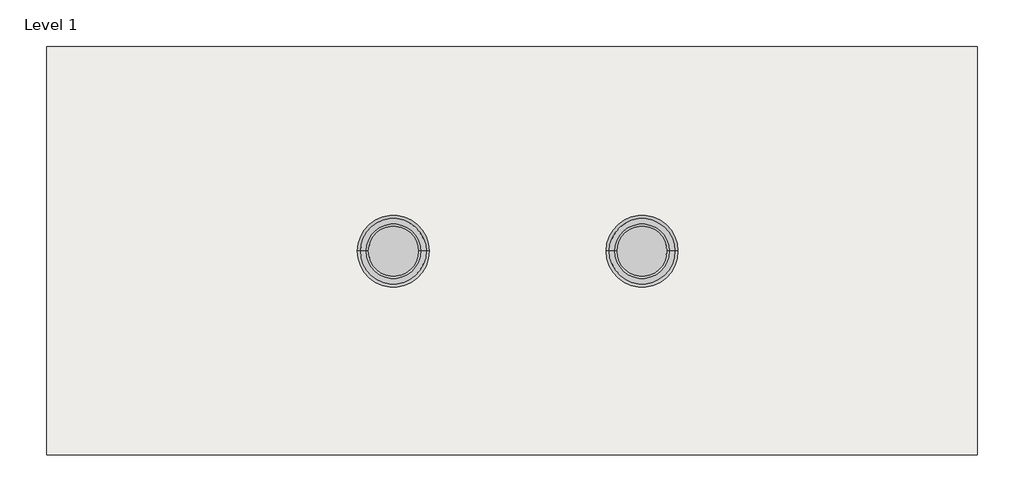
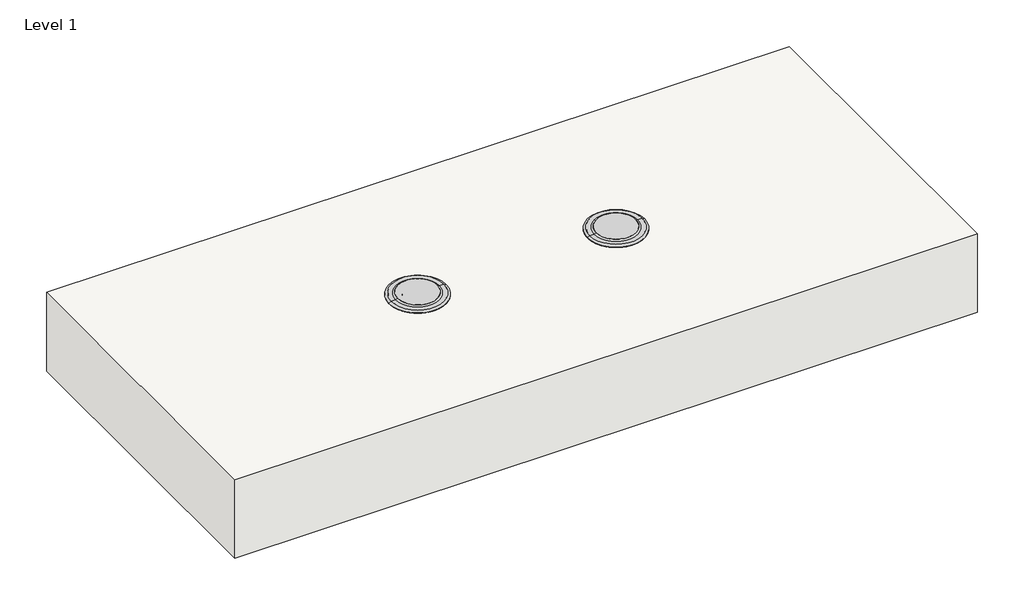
# One storey: 2 proxies, 1 slab.
"""IFC4 building model written with IfcOpenShell, lengths in millimetres."""

import ifcopenshell
import ifcopenshell.guid

model = None  # the IFC model being written
_history = None  # IfcOwnerHistory: only IFC2X3 demands one
_inside = {}  # id of a spatial element -> (the spatial element, [elements in it])
_under = {}  # id of a project, library or spatial element -> (it, [spatial elements below it])
_declared = {}  # id of a project -> (the project, [libraries it declares])
_typed = {}  # id of a type object -> (the type object, [elements of that type])
_made_of = {}  # id of a material, layer set ... -> (it, [elements and type objects made of it])


def new_model(schema):
    """Start an empty IFC model of exactly this schema.

    Asked for "IFC4X3", IfcOpenShell would pick the latest addendum, in which some entities
    have other attributes; the version numbers below select the first issue.
    IFC2X3 requires an IfcOwnerHistory on every rooted entity: one is made here for all.
    """
    global model, _history
    if schema == "IFC4X3":
        model = ifcopenshell.file(schema_version=(4, 3, 0, 0))
    else:
        model = ifcopenshell.file(schema=schema)
    _inside.clear()
    _under.clear()
    _declared.clear()
    _typed.clear()
    _made_of.clear()
    _history = None
    if model.schema == "IFC2X3":
        org = make("IfcOrganization", Name="unknown")
        user = make(
            "IfcPersonAndOrganization",
            ThePerson=make("IfcPerson", FamilyName="unknown"),
            TheOrganization=org,
        )
        app = make(
            "IfcApplication",
            ApplicationDeveloper=org,
            Version="unknown",
            ApplicationFullName="unknown",
            ApplicationIdentifier="unknown",
        )
        _history = make(
            "IfcOwnerHistory",
            OwningUser=user,
            OwningApplication=app,
            ChangeAction="ADDED",
            CreationDate=0,
        )
    return model


def make(cls, **values):
    """One entity of the class cls with the attributes given. An attribute that is None is left unset."""
    return model.create_entity(
        cls, **{name: value for name, value in values.items() if value is not None}
    )


def rooted(cls, **values):
    """An entity with a GlobalId (a new one), such as an element, a storey or a relation."""
    return make(cls, GlobalId=ifcopenshell.guid.new(), OwnerHistory=_history, **values)


def si_unit(unit_type, name, prefix=None):
    """IfcSIUnit, for example si_unit("LENGTHUNIT", "METRE", prefix="MILLI")."""
    return make("IfcSIUnit", UnitType=unit_type, Prefix=prefix, Name=name)


def assignment(units):
    """IfcUnitAssignment: the units of a project."""
    return None if units is None else make("IfcUnitAssignment", Units=units)


def point(xyz):
    """IfcCartesianPoint."""
    return None if xyz is None else make("IfcCartesianPoint", Coordinates=xyz)


def direction(xyz):
    """IfcDirection."""
    return None if xyz is None else make("IfcDirection", DirectionRatios=xyz)


def frame(location, z_axis=None, x_axis=None):
    """IfcAxis2Placement3D, a coordinate frame: its origin and axes. An axis left out is left unset."""
    return make(
        "IfcAxis2Placement3D",
        Location=point(location),
        Axis=direction(z_axis),
        RefDirection=direction(x_axis),
    )


def frame_2d(location, x_axis=None):
    """IfcAxis2Placement2D, a coordinate frame in the plane: its origin and x axis."""
    return make(
        "IfcAxis2Placement2D", Location=point(location), RefDirection=direction(x_axis)
    )


def origin():
    """The frame at (0, 0, 0) with its axes left unset."""
    return frame((0.0, 0.0, 0.0))


def origin_with_axes():
    """The frame at (0, 0, 0) with the z axis (0, 0, 1) and the x axis (1, 0, 0) written out."""
    return frame((0.0, 0.0, 0.0), z_axis=(0.0, 0.0, 1.0), x_axis=(1.0, 0.0, 0.0))


def origin_2d():
    """The frame at (0, 0) in the plane with its x axis left unset."""
    return frame_2d((0.0, 0.0))


def place(relative_to, where):
    """IfcLocalPlacement: puts the frame where relative to a parent placement (None: the world)."""
    return make(
        "IfcLocalPlacement", PlacementRelTo=relative_to, RelativePlacement=where
    )


def context(
    kind, dimensions, precision=None, world=None, true_north=None, identifier=None
):
    """IfcGeometricRepresentationContext, for example the 3D "Model" context."""
    return make(
        "IfcGeometricRepresentationContext",
        ContextIdentifier=identifier,
        ContextType=kind,
        CoordinateSpaceDimension=dimensions,
        Precision=precision,
        WorldCoordinateSystem=world,
        TrueNorth=true_north,
    )


def project(units=None, contexts=None):
    """IfcProject with its units and contexts."""
    return rooted(
        "IfcProject",
        Name="project",
        RepresentationContexts=contexts,
        UnitsInContext=assignment(units),
    )


def spatial(cls, under=None, at=None, **own):
    """A site, building, storey or space (cls), placed at a placement, below another one or the project."""
    s = rooted(cls, ObjectPlacement=at, **own)
    if under is not None:
        _under.setdefault(under.id(), (under, []))[1].append(s)
    return s


def polyline(points):
    """IfcPolyline through the points."""
    return make("IfcPolyline", Points=[point(p) for p in points])


def circle_curve(where, radius):
    """IfcCircle in the frame where."""
    return make("IfcCircle", Position=where, Radius=radius)


def trimmed(basis, trim1, trim2, sense, master):
    """IfcTrimmedCurve: the piece of a basis curve between two trims."""
    return make(
        "IfcTrimmedCurve",
        BasisCurve=basis,
        Trim1=trim1,
        Trim2=trim2,
        SenseAgreement=sense,
        MasterRepresentation=master,
    )


def segment(curve, same_sense, transition):
    """IfcCompositeCurveSegment."""
    return make(
        "IfcCompositeCurveSegment",
        Transition=transition,
        SameSense=same_sense,
        ParentCurve=curve,
    )


def composite_curve(segments, self_intersect=None):
    """IfcCompositeCurve: segments joined end to end."""
    return make("IfcCompositeCurve", Segments=segments, SelfIntersect=self_intersect)


def outline(outer, holes=None, kind="AREA"):
    """IfcArbitraryClosedProfileDef: a profile drawn as a closed curve; with holes, ...WithVoids."""
    if holes is None:
        return make("IfcArbitraryClosedProfileDef", ProfileType=kind, OuterCurve=outer)
    return make(
        "IfcArbitraryProfileDefWithVoids",
        ProfileType=kind,
        OuterCurve=outer,
        InnerCurves=holes,
    )


def extrude(swept, where, along, depth):
    """IfcExtrudedAreaSolid: the profile swept, set in the frame where, extruded along a direction by depth."""
    return make(
        "IfcExtrudedAreaSolid",
        SweptArea=swept,
        Position=where,
        ExtrudedDirection=direction(along),
        Depth=depth,
    )


def shape(context_of_items, identifier, shape_type, items):
    """IfcShapeRepresentation: the items that make up one representation, for example the "Body"."""
    return make(
        "IfcShapeRepresentation",
        ContextOfItems=context_of_items,
        RepresentationIdentifier=identifier,
        RepresentationType=shape_type,
        Items=items,
    )


def source(mapping_origin, context_of_items, identifier, shape_type, items):
    """IfcRepresentationMap: a shape defined once, which mapped items show again and again."""
    return make(
        "IfcRepresentationMap",
        MappingOrigin=mapping_origin,
        MappedRepresentation=shape(context_of_items, identifier, shape_type, items),
    )


def transform(
    local_origin,
    x_axis=None,
    y_axis=None,
    z_axis=None,
    scale=None,
    scale2=None,
    scale3=None,
    uniform=True,
):
    """IfcCartesianTransformationOperator3D, or its non-uniform kind. x_axis, y_axis, z_axis: its Axis1, 2, 3."""
    if uniform:
        return make(
            "IfcCartesianTransformationOperator3D",
            Axis1=direction(x_axis),
            Axis2=direction(y_axis),
            LocalOrigin=point(local_origin),
            Scale=scale,
            Axis3=direction(z_axis),
        )
    return make(
        "IfcCartesianTransformationOperator3DnonUniform",
        Axis1=direction(x_axis),
        Axis2=direction(y_axis),
        LocalOrigin=point(local_origin),
        Scale=scale,
        Axis3=direction(z_axis),
        Scale2=scale2,
        Scale3=scale3,
    )


def mapped(mapping_source, mapping_target):
    """IfcMappedItem: shows the shape of a source again, moved by a transform."""
    return make(
        "IfcMappedItem", MappingSource=mapping_source, MappingTarget=mapping_target
    )


def made_of(thing, what):
    """Note that an element or type object is made of a material, layer set ...; save() writes the relation."""
    if what is not None:
        _made_of.setdefault(what.id(), (what, []))[1].append(thing)
    return thing


def element(
    cls,
    number,
    at=None,
    inside=None,
    cuts=None,
    type_object=None,
    material=None,
    context=None,
    identifier="Body",
    shape_type=None,
    held_by="IfcProductDefinitionShape",
    body=None,
    shapes=None,
    **own,
):
    """One element of the class cls, such as IfcWall. Its Tag is "e" and its number.

    at: its placement. inside: the storey or other place that contains it. cuts: it is an
    opening in that element (IfcRelVoidsElement). A single representation is given by context,
    identifier, shape_type and body (its items); several are given by shapes. held_by: the class
    of the entity that holds the representations. save() writes the other relations.
    """
    e = rooted(cls, Tag="e%d" % number, ObjectPlacement=at, **own)
    if body is not None:
        shapes = [shape(context, identifier, shape_type, body)]
    if shapes is not None:
        e.Representation = make(held_by, Representations=shapes)
    if inside is not None:
        _inside.setdefault(inside.id(), (inside, []))[1].append(e)
    if cuts is not None:
        rooted(
            "IfcRelVoidsElement", RelatingBuildingElement=cuts, RelatedOpeningElement=e
        )
    if type_object is not None:
        _typed.setdefault(type_object.id(), (type_object, []))[1].append(e)
    return made_of(e, material)


def aggregate(whole, parts):
    """IfcRelAggregates: a whole, such as a stair, and the parts it consists of."""
    return rooted("IfcRelAggregates", RelatingObject=whole, RelatedObjects=parts)


def save(model, path):
    """Write the relations noted so far, then the file.

    IfcRelAggregates (storeys below a building ...), IfcRelContainedInSpatialStructure (elements
    in a storey), IfcRelDefinesByType, IfcRelAssociatesMaterial and IfcRelDeclares: one each for
    every whole, place, type object, material and project.
    """
    for whole, parts in _under.values():
        aggregate(whole, parts)
    for where, things in _inside.values():
        rooted(
            "IfcRelContainedInSpatialStructure",
            RelatedElements=things,
            RelatingStructure=where,
        )
    for kind, things in _typed.values():
        rooted("IfcRelDefinesByType", RelatedObjects=things, RelatingType=kind)
    for what, things in _made_of.values():
        rooted("IfcRelAssociatesMaterial", RelatedObjects=things, RelatingMaterial=what)
    for by, libraries in _declared.values():
        rooted("IfcRelDeclares", RelatingContext=by, RelatedDefinitions=libraries)
    model.write(path)


def plane_surface(at):
    """IfcPlane: the flat surface through the origin of the frame at, square to its z axis."""
    return make("IfcPlane", Position=at)


def cylinder_surface(at, radius):
    """IfcCylindricalSurface: all points at the distance radius from the z axis of the frame at."""
    return make("IfcCylindricalSurface", Position=at, Radius=radius)


def revolved_surface(curve, axis_point, axis_direction):
    """IfcSurfaceOfRevolution: the curve turned about the line through axis_point along axis_direction."""
    return make(
        "IfcSurfaceOfRevolution",
        SweptCurve=make("IfcArbitraryOpenProfileDef", ProfileType="CURVE", Curve=curve),
        AxisPosition=make("IfcAxis1Placement", Location=point(axis_point), Axis=direction(axis_direction)),
    )


def advanced_brep(points, edges, surfaces, faces):
    """IfcAdvancedBrep: a solid bounded by faces that lie on surfaces and meet in shared edges.

    An edge is (start, end): straight between two places in points (the first is 0);
    or (start, end, curve); or (start, end, curve, False) where it runs against its curve.
    A face is (place in surfaces, loops), or (place, loops, False) where it looks against
    its surface's normal. A loop lists edges by number (the first is 1), with a minus sign
    where the edge is run from its end to its start. The first loop is the outer one.
    """
    corners = [point(p) for p in points]
    vertices = [make("IfcVertexPoint", VertexGeometry=c) for c in corners]
    made = []
    for start, end, *more in edges:
        made.append(
            make(
                "IfcEdgeCurve",
                EdgeStart=vertices[start],
                EdgeEnd=vertices[end],
                EdgeGeometry=more[0] if more else make("IfcPolyline", Points=[corners[start], corners[end]]),
                SameSense=more[1] if len(more) > 1 else True,
            )
        )
    hull = []
    for where, loops, *sense in faces:
        bounds = []
        for j, loop in enumerate(loops):
            ring = [make("IfcOrientedEdge", EdgeElement=made[abs(k) - 1], Orientation=k > 0) for k in loop]
            bounds.append(
                make(
                    "IfcFaceOuterBound" if j == 0 else "IfcFaceBound",
                    Bound=make("IfcEdgeLoop", EdgeList=ring),
                    Orientation=True,
                )
            )
        hull.append(make("IfcAdvancedFace", Bounds=bounds, FaceSurface=surfaces[where], SameSense=sense[0] if sense else True))
    return make("IfcAdvancedBrep", Outer=make("IfcClosedShell", CfsFaces=hull))


def electrical_fixtures_3518aa85(model_context):
    return source(origin(), model_context, "Body", "SolidModel", [
        extrude(outline(composite_curve([segment(trimmed(circle_curve(origin_2d(), 72.7202), [point((-72.7202, 0.0))], [point((72.7202, 0.0))], False, "CARTESIAN"), True, "CONTINUOUS"), segment(trimmed(circle_curve(origin_2d(), 72.7202), [point((72.7202, 0.0))], [point((-72.7202, 0.0))], False, "CARTESIAN"), True, "CONTINUOUS")], self_intersect=False)), origin_with_axes(), (0.0, 0.0, 1.0), 10.795),
        extrude(outline(polyline([(-28.94965, 24.11222), (28.94965, 24.11222), (28.94965, -24.11222), (-28.94965, -24.11222), (-28.94965, 24.11222)])), frame((0.0, 0.0, -409.9052), z_axis=(0.0, 0.0, 1.0), x_axis=(1.0, 0.0, 0.0)), (0.0, 0.0, 1.0), 182.5752),
        extrude(outline(composite_curve([segment(trimmed(circle_curve(origin_2d(), 11.67511), [point((11.67511, 0.0))], [point((-11.67511, 0.0))], False, "CARTESIAN"), True, "CONTINUOUS"), segment(trimmed(circle_curve(origin_2d(), 11.67511), [point((-11.67511, 0.0))], [point((11.67511, 0.0))], False, "CARTESIAN"), True, "CONTINUOUS")], self_intersect=False)), frame((0.0, 0.0, -227.33), z_axis=(0.0, 0.0, 1.0), x_axis=(1.0, 0.0, 0.0)), (0.0, 0.0, 1.0), 143.1798),
        extrude(outline(composite_curve([segment(trimmed(circle_curve(origin_2d(), 49.5046), [point((49.5046, 0.0))], [point((-49.5046, 0.0))], False, "CARTESIAN"), True, "CONTINUOUS"), segment(trimmed(circle_curve(origin_2d(), 49.5046), [point((-49.5046, 0.0))], [point((49.5046, 0.0))], False, "CARTESIAN"), True, "CONTINUOUS")], self_intersect=False)), frame((0.0, 0.0, -84.1502), z_axis=(0.0, 0.0, 1.0), x_axis=(1.0, 0.0, 0.0)), (0.0, 0.0, 1.0), 84.1502),
        advanced_brep(
        [(104.775, 0.0, 0.0), (-104.775, 0.0, 0.0), (-104.775, 0.0, 1.996072), (104.775, 0.0, 1.996072), (93.8998227, 0.0, 0.0), (-93.8998227, 0.0, 0.0), (93.8998227, 0.0, -7.9502), (-93.8998227, 0.0, -7.9502), (72.7134422, 0.0, -7.9502), (-72.7134422, 0.0, -7.9502), (79.493084, 0.0, 7.3406), (-79.493084, 0.0, 7.3406), (-72.7134422, 0.0, 10.795), (72.7134422, 0.0, 10.795), (95.8802118, 0.0, 7.3406), (-95.8802118, 0.0, 7.3406)],
        [
            (0, 1, circle_curve(frame((0.0, 0.0, 0.0), z_axis=(0.0, 0.0, 1.0), x_axis=(-1.0, 0.0, 0.0)), 104.775)),
            (1, 2),
            (2, 3, circle_curve(frame((0.0, 0.0, 1.996072), z_axis=(0.0, 0.0, -1.0), x_axis=(-1.0, 0.0, 0.0)), 104.775)),
            (3, 0),
            (1, 0, circle_curve(frame((0.0, 0.0, 0.0), z_axis=(0.0, 0.0, 1.0), x_axis=(-1.0, 0.0, 0.0)), 104.775)),
            (3, 2, circle_curve(frame((0.0, 0.0, 1.996072), z_axis=(0.0, 0.0, -1.0), x_axis=(-1.0, 0.0, 0.0)), 104.775)),
            (4, 5, circle_curve(frame((0.0, 0.0, 0.0), z_axis=(0.0, 0.0, 1.0), x_axis=(-1.0, 0.0, 0.0)), 93.8998227)),
            (5, 1),
            (0, 4),
            (5, 4, circle_curve(frame((0.0, 0.0, 0.0), z_axis=(0.0, 0.0, 1.0), x_axis=(-1.0, 0.0, 0.0)), 93.8998227)),
            (6, 7, circle_curve(frame((0.0, 0.0, -7.9502), z_axis=(0.0, 0.0, 1.0), x_axis=(-1.0, 0.0, 0.0)), 93.8998227)),
            (7, 5),
            (4, 6),
            (7, 6, circle_curve(frame((0.0, 0.0, -7.9502), z_axis=(0.0, 0.0, 1.0), x_axis=(-1.0, 0.0, 0.0)), 93.8998227)),
            (8, 9, circle_curve(frame((0.0, 0.0, -7.9502), z_axis=(0.0, 0.0, 1.0), x_axis=(-1.0, 0.0, 0.0)), 72.7134422)),
            (9, 7),
            (6, 8),
            (9, 8, circle_curve(frame((0.0, 0.0, -7.9502), z_axis=(0.0, 0.0, 1.0), x_axis=(-1.0, 0.0, 0.0)), 72.7134422)),
            (10, 11, circle_curve(frame((0.0, 0.0, 7.3406), z_axis=(0.0, 0.0, 1.0), x_axis=(-1.0, 0.0, 0.0)), 79.493084)),
            (11, 12),
            (12, 13, circle_curve(frame((0.0, 0.0, 10.795), z_axis=(0.0, 0.0, -1.0), x_axis=(-1.0, 0.0, 0.0)), 72.7134422)),
            (13, 10),
            (11, 10, circle_curve(frame((0.0, 0.0, 7.3406), z_axis=(0.0, 0.0, 1.0), x_axis=(-1.0, 0.0, 0.0)), 79.493084)),
            (13, 12, circle_curve(frame((0.0, 0.0, 10.795), z_axis=(0.0, 0.0, -1.0), x_axis=(-1.0, 0.0, 0.0)), 72.7134422)),
            (14, 15, circle_curve(frame((0.0, 0.0, 7.3406), z_axis=(0.0, 0.0, 1.0), x_axis=(-1.0, 0.0, 0.0)), 95.8802118)),
            (15, 11),
            (10, 14),
            (15, 14, circle_curve(frame((0.0, 0.0, 7.3406), z_axis=(0.0, 0.0, 1.0), x_axis=(-1.0, 0.0, 0.0)), 95.8802118)),
            (2, 15),
            (14, 3),
            (12, 9),
            (8, 13),
        ],
        [
            cylinder_surface(frame((0.0, 0.0, 9.9544873), z_axis=(0.0, 0.0, -1.0), x_axis=(-1.0, 0.0, 0.0)), 104.775),
            plane_surface(frame((0.0, 0.0, 0.0), z_axis=(0.0, 0.0, -1.0), x_axis=(-1.0, 0.0, 0.0))),
            cylinder_surface(frame((0.0, 0.0, 9.9544873), z_axis=(0.0, 0.0, -1.0), x_axis=(-1.0, 0.0, 0.0)), 93.8998227),
            plane_surface(frame((0.0, 0.0, -7.9502), z_axis=(0.0, 0.0, -1.0), x_axis=(-1.0, 0.0, 0.0))),
            revolved_surface(polyline([(-72.7134422, 0.0, 10.795), (-79.493084, 0.0, 7.3406)]), (0.0, 0.0, 9.9544873), (0.0, 0.0, -1.0)),
            plane_surface(frame((0.0, 0.0, 7.3406), z_axis=(0.0, 0.0, 1.0), x_axis=(-1.0, 0.0, 0.0))),
            revolved_surface(polyline([(-95.8802118, 0.0, 7.3406), (-104.775, 0.0, 1.996072)]), (0.0, 0.0, 9.9544873), (0.0, 0.0, -1.0)),
            revolved_surface(polyline([(-72.7134422, 0.0, -7.950199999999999), (-72.7134422, 0.0, 10.795)]), (0.0, 0.0, 9.9544873), (0.0, 0.0, -1.0)),
        ],
        [
            (0, [[1, 2, 3, 4]]),
            (0, [[5, -4, 6, -2]]),
            (1, [[7, 8, -1, 9]]),
            (1, [[10, -9, -5, -8]]),
            (2, [[11, 12, -7, 13]]),
            (2, [[14, -13, -10, -12]]),
            (3, [[15, 16, -11, 17]]),
            (3, [[18, -17, -14, -16]]),
            (4, [[19, 20, 21, 22]]),
            (4, [[23, -22, 24, -20]]),
            (5, [[25, 26, -19, 27]]),
            (5, [[28, -27, -23, -26]]),
            (6, [[-3, 29, -25, 30]]),
            (6, [[-6, -30, -28, -29]]),
            (7, [[-21, 31, -15, 32]]),
            (7, [[-24, -32, -18, -31]]),
        ],
    ),
    ])


model = new_model("IFC4")

# Units and contexts
model_context = context("Model", 3, world=origin())
ifc_project = project(units=[si_unit("LENGTHUNIT", "METRE", prefix="MILLI")], contexts=[model_context])

# Site, building, storey
site = spatial("IfcSite", under=ifc_project)
building = spatial("IfcBuilding", under=site)
storey = spatial("IfcBuildingStorey", under=building, Name="Level 1", Elevation=0.0)

# Proxies
placement = place(None, origin())
electrical_fixtures_shape = electrical_fixtures_3518aa85(model_context)
element("IfcBuildingElementProxy", 1, Name="Poke_Thru-Assembled_Unit-Wiremold-RC4_Series : Insert Assembly with Disposable Plate", ObjectType="Poke_Thru-Assembled_Unit-Wiremold-RC4_Series : Insert Assembly with Disposable Plate", at=placement, inside=storey, context=model_context, shape_type="MappedRepresentation", body=[
    mapped(electrical_fixtures_shape, transform((3571.8592817, 780.744527, 0.0), x_axis=(-1.0, 0.0, 0.0), y_axis=(0.0, -1.0, 0.0), z_axis=(0.0, 0.0, 1.0))),
])
element("IfcBuildingElementProxy", 2, Name="Poke_Thru-Assembled_Unit-Wiremold-RC4_Series : Insert Assembly, Black", ObjectType="Poke_Thru-Assembled_Unit-Wiremold-RC4_Series : Insert Assembly, Black", at=placement, inside=storey, context=model_context, shape_type="MappedRepresentation", body=[
    mapped(electrical_fixtures_shape, transform((2845.7881157, 780.744527, 0.0), x_axis=(-1.0, 0.0, 0.0), y_axis=(0.0, -1.0, 0.0), z_axis=(0.0, 0.0, 1.0))),
])

# Slab
element("IfcSlab", 3, ObjectType="Generic - 12\"", at=placement, inside=storey, context=model_context, shape_type="SweptSolid", body=[
    extrude(outline(polyline([(4550.9973575, 1378.9766815), (4550.9973575, 185.1766815), (1833.1973575, 185.1766815), (1833.1973575, 1378.9766815), (4550.9973575, 1378.9766815)])), frame((0.0, 0.0, -304.8), z_axis=(0.0, 0.0, 1.0), x_axis=(1.0, 0.0, 0.0)), (0.0, 0.0, 1.0), 304.8),
])

save(model, "model.ifc")
